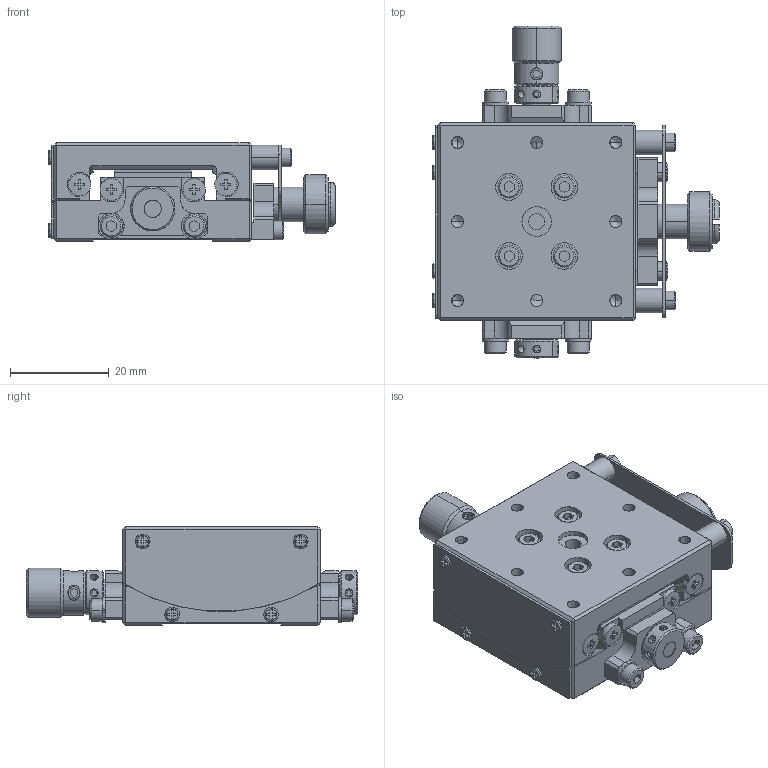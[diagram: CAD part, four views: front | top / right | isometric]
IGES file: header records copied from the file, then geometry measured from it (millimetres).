
Global section: file name: No Iges File Name specified; native system: AutoDesk Inventor R11.0; preprocessor: AutoDesk Inventor Iges Exporter R11.0; author: No Author specified; organization: No Organization specified; date: 20070906.180023; units: millimetre
Bounding box: 58.1 x 67.2 x 20 mm (x, y, z)
Volume: 30003.2 mm3; surface area: 19702.3 mm2
Topology: 48 solids, 64 shells, 1384 faces, 3480 edges, 2171 vertices
Faces by surface type: plane 619, bspline 308, cylinder 178, revolution 113, cone 112, sphere 44, torus 10
